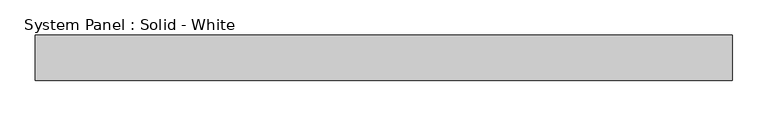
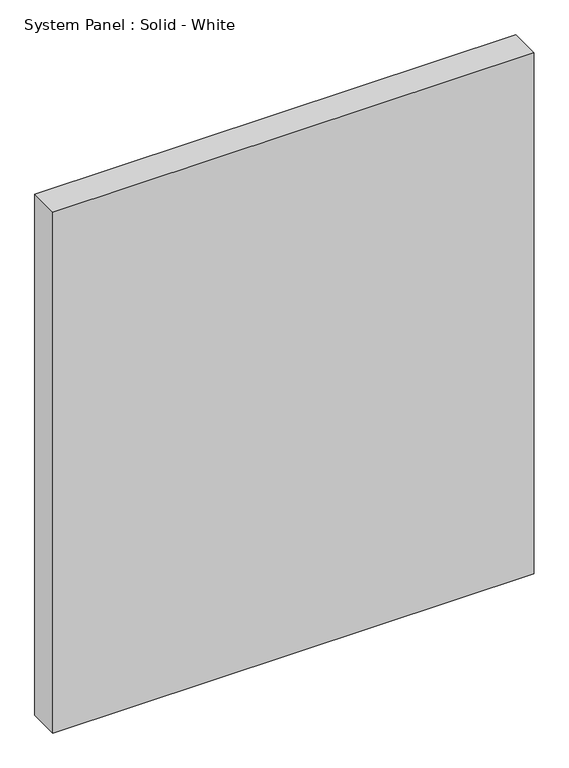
"""IFC4 building model written with IfcOpenShell, lengths in millimetres: plate geometry, System Panel : Solid - White."""

from ifc_helpers import new_model, si_unit, origin, origin_with_axes, place, context, project, spatial, polyline, outline, extrude, source, transform, mapped, element, save


def system_panel_solid_white_d6818c59(model_context):
    return source(origin(), model_context, "Body", "SweptSolid", [
        extrude(outline(polyline([(490.9910714, -19.05), (-490.9910714, -19.05), (-490.9910714, 44.45), (490.9910714, 44.45), (490.9910714, -19.05)])), origin_with_axes(), (0.0, 0.0, 1.0), 1123.95),
    ])


if __name__ == "__main__":
    model = new_model("IFC4")
    model_context = context("Model", 3, world=origin())
    ifc_project = project(units=[si_unit("LENGTHUNIT", "METRE", prefix="MILLI")], contexts=[model_context])
    site = spatial("IfcSite", under=ifc_project)
    building = spatial("IfcBuilding", under=site)
    placement = place(None, origin())
    system_panel_solid_white_shape = system_panel_solid_white_d6818c59(model_context)
    element("IfcPlate", 1, ObjectType="System Panel : Solid - White", at=placement, inside=building, context=model_context, shape_type="MappedRepresentation", body=[
        mapped(system_panel_solid_white_shape, transform((0.0, 0.0, 0.0), x_axis=(1.0, 0.0, 0.0), y_axis=(0.0, 1.0, 0.0), z_axis=(0.0, 0.0, 1.0))),
    ])
    save(model, "model.ifc")
